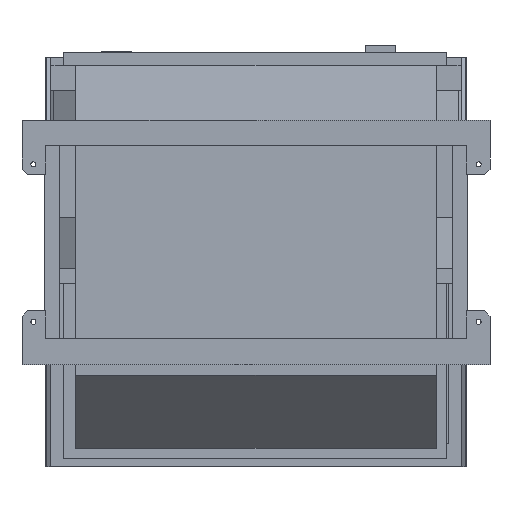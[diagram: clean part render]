
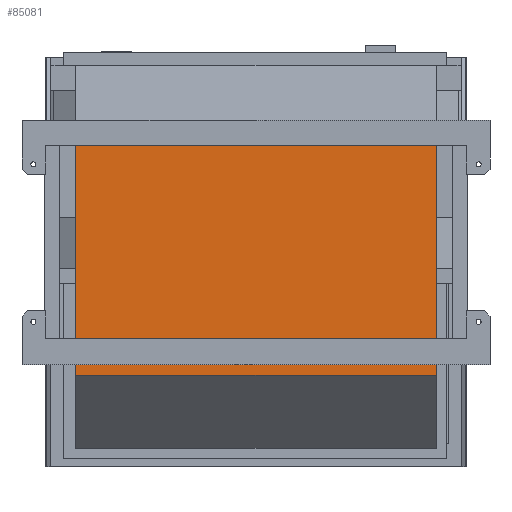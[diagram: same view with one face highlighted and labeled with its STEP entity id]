
A CAD part, front view. The second image highlights one B-rep face of the part: STEP entity #85081.
In plain terms, the highlighted planar face has unit normal (0, -1, 0).
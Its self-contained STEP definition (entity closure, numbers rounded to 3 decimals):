
#83374=DIRECTION('',(0.,0.,1.));
#83375=VECTOR('',#83374,48.249);
#83376=CARTESIAN_POINT('',(35.5,-67.128,12.846));
#83377=LINE('',#83376,#83375);
#83622=DIRECTION('',(1.,0.,0.));
#83623=VECTOR('',#83622,71.);
#83624=CARTESIAN_POINT('',(-35.5,-67.128,61.095));
#83625=LINE('',#83624,#83623);
#83626=DIRECTION('',(-1.,0.,0.));
#83627=VECTOR('',#83626,71.);
#83628=CARTESIAN_POINT('',(35.5,-67.128,12.846));
#83629=LINE('',#83628,#83627);
#83630=DIRECTION('',(0.,0.,1.));
#83631=VECTOR('',#83630,48.249);
#83632=CARTESIAN_POINT('',(-35.5,-67.128,12.846));
#83633=LINE('',#83632,#83631);
#83730=CARTESIAN_POINT('',(35.5,-67.128,12.846));
#83731=CARTESIAN_POINT('',(-35.5,-67.128,12.846));
#83732=VERTEX_POINT('',#83730);
#83733=VERTEX_POINT('',#83731);
#83743=CARTESIAN_POINT('',(35.5,-67.128,61.095));
#83745=VERTEX_POINT('',#83743);
#83746=CARTESIAN_POINT('',(-35.5,-67.128,61.095));
#83747=VERTEX_POINT('',#83746);
#85069=CARTESIAN_POINT('',(-35.5,-67.128,0.));
#85070=DIRECTION('',(0.,-1.,0.));
#85071=DIRECTION('',(1.,0.,0.));
#85072=AXIS2_PLACEMENT_3D('',#85069,#85070,#85071);
#85073=PLANE('',#85072);
#85075=ORIENTED_EDGE('',*,*,#85074,.T.);
#85076=ORIENTED_EDGE('',*,*,#84634,.F.);
#85077=ORIENTED_EDGE('',*,*,#85064,.T.);
#85078=ORIENTED_EDGE('',*,*,#84151,.T.);
#85079=EDGE_LOOP('',(#85075,#85076,#85077,#85078));
#85080=FACE_OUTER_BOUND('',#85079,.F.);
#85081=ADVANCED_FACE('',(#85080),#85073,.T.);
#84151=EDGE_CURVE('',#83733,#83747,#83633,.T.);
#84634=EDGE_CURVE('',#83732,#83745,#83377,.T.);
#85064=EDGE_CURVE('',#83732,#83733,#83629,.T.);
#85074=EDGE_CURVE('',#83747,#83745,#83625,.T.);
